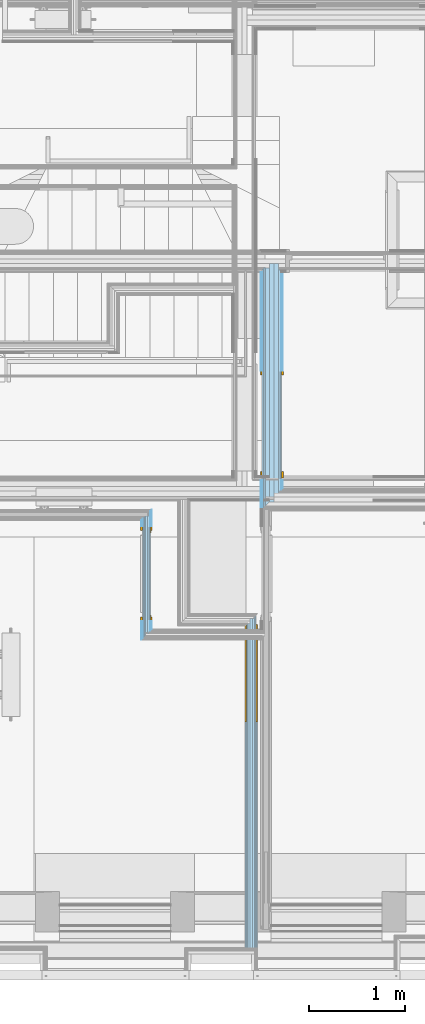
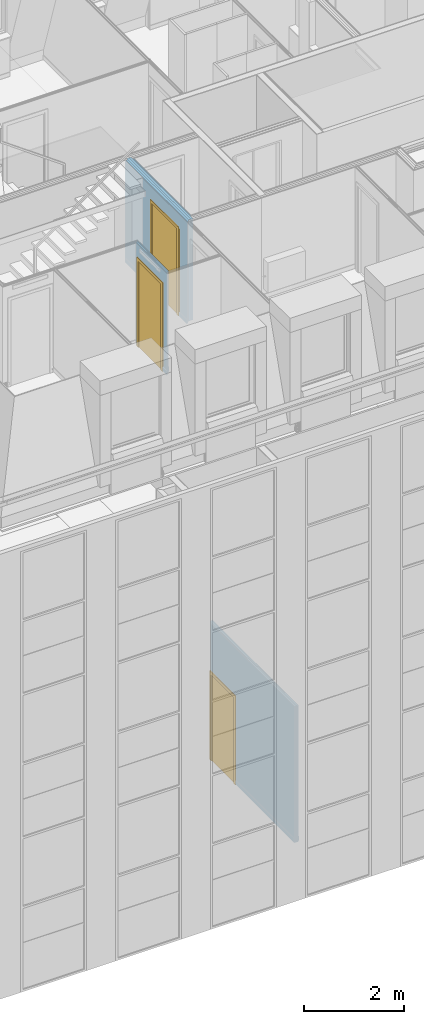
# One storey, part 85 of 169: 3 doors, 4 openings, 3 elements without a shape of their own, plus 23 elements that do not belong to this part.
"""IFC2X3 building model written with IfcOpenShell, lengths in metres."""

from ifc_helpers import new_model, entity, si_unit, converted_unit, derived_unit, money_unit, direction, frame, frame_2d, origin_with_axes, place, context, subcontext, project, spatial, polyline, rectangle, outline, extrude, faceted_brep, material, type_object, element, fill, aggregate, save


model = new_model("IFC2X3")

# Units and contexts
model_context = context("Model", 3, precision=1e-05, world=origin_with_axes(), true_north=direction((0.0, 1.0)))
body_context = subcontext(model_context, "Body", "Model", "MODEL_VIEW", scale=1.0)
ifc_project = project(units=[si_unit("LENGTHUNIT", "METRE"), si_unit("AREAUNIT", "SQUARE_METRE"), si_unit("VOLUMEUNIT", "CUBIC_METRE"), si_unit("ABSORBEDDOSEUNIT", "GRAY"), si_unit("AMOUNTOFSUBSTANCEUNIT", "MOLE"), si_unit("DOSEEQUIVALENTUNIT", "SIEVERT"), si_unit("ELECTRICCAPACITANCEUNIT", "FARAD"), si_unit("ELECTRICCHARGEUNIT", "COULOMB"), si_unit("ELECTRICCONDUCTANCEUNIT", "SIEMENS"), si_unit("ELECTRICCURRENTUNIT", "AMPERE"), si_unit("ELECTRICRESISTANCEUNIT", "OHM"), si_unit("ELECTRICVOLTAGEUNIT", "VOLT"), si_unit("ENERGYUNIT", "JOULE"), si_unit("FORCEUNIT", "NEWTON"), si_unit("FREQUENCYUNIT", "HERTZ"), si_unit("ILLUMINANCEUNIT", "LUX"), si_unit("INDUCTANCEUNIT", "HENRY"), si_unit("LUMINOUSFLUXUNIT", "LUMEN"), si_unit("LUMINOUSINTENSITYUNIT", "CANDELA"), si_unit("MAGNETICFLUXDENSITYUNIT", "TESLA"), si_unit("MAGNETICFLUXUNIT", "WEBER"), si_unit("MASSUNIT", "GRAM"), converted_unit("PLANEANGLEUNIT", "degree", entity("IfcReal", 0.0174532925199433), si_unit("PLANEANGLEUNIT", "RADIAN"), dimensions=[0, 0, 0, 0, 0, 0, 0]), si_unit("POWERUNIT", "WATT"), si_unit("PRESSUREUNIT", "PASCAL"), si_unit("RADIOACTIVITYUNIT", "BECQUEREL"), si_unit("SOLIDANGLEUNIT", "STERADIAN"), si_unit("THERMODYNAMICTEMPERATUREUNIT", "KELVIN"), si_unit("TIMEUNIT", "SECOND"), derived_unit("ACCELERATIONUNIT", [(si_unit("LENGTHUNIT", "METRE"), 1), (si_unit("TIMEUNIT", "SECOND"), -2)]), derived_unit("ANGULARVELOCITYUNIT", [(converted_unit("PLANEANGLEUNIT", "degree", entity("IfcReal", 0.0174532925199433), si_unit("PLANEANGLEUNIT", "RADIAN"), dimensions=[0, 0, 0, 0, 0, 0, 0]), 1), (si_unit("TIMEUNIT", "SECOND"), -1)]), derived_unit("CURVATUREUNIT", [(converted_unit("PLANEANGLEUNIT", "degree", entity("IfcReal", 0.0174532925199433), si_unit("PLANEANGLEUNIT", "RADIAN"), dimensions=[0, 0, 0, 0, 0, 0, 0]), 1), (si_unit("LENGTHUNIT", "METRE"), -1)]), derived_unit("DYNAMICVISCOSITYUNIT", [(si_unit("PRESSUREUNIT", "PASCAL"), 1), (si_unit("TIMEUNIT", "SECOND"), 1)]), derived_unit("HEATFLUXDENSITYUNIT", [(si_unit("POWERUNIT", "WATT"), 1), (si_unit("LENGTHUNIT", "METRE"), -2)]), derived_unit("HEATINGVALUEUNIT", [(si_unit("ENERGYUNIT", "JOULE"), 1), (si_unit("MASSUNIT", "GRAM"), -1)]), derived_unit("INTEGERCOUNTRATEUNIT", [(si_unit("TIMEUNIT", "SECOND"), -1)]), derived_unit("IONCONCENTRATIONUNIT", [(si_unit("MASSUNIT", "GRAM"), 1), (si_unit("VOLUMEUNIT", "CUBIC_METRE"), -1)]), derived_unit("ISOTHERMALMOISTURECAPACITYUNIT", [(si_unit("VOLUMEUNIT", "CUBIC_METRE"), 1), (si_unit("MASSUNIT", "GRAM"), -1)]), derived_unit("KINEMATICVISCOSITYUNIT", [(si_unit("AREAUNIT", "SQUARE_METRE"), 1), (si_unit("TIMEUNIT", "SECOND"), -1)]), derived_unit("LINEARFORCEUNIT", [(si_unit("FORCEUNIT", "NEWTON"), 1), (si_unit("LENGTHUNIT", "METRE"), -1)]), derived_unit("LINEARMOMENTUNIT", [(si_unit("FORCEUNIT", "NEWTON"), 1), (si_unit("LENGTHUNIT", "METRE"), -1)]), derived_unit("LINEARSTIFFNESSUNIT", [(si_unit("FORCEUNIT", "NEWTON"), 1), (si_unit("LENGTHUNIT", "METRE"), -1)]), derived_unit("LINEARVELOCITYUNIT", [(si_unit("LENGTHUNIT", "METRE"), 1), (si_unit("TIMEUNIT", "SECOND"), -1)]), derived_unit("LUMINOUSINTENSITYDISTRIBUTIONUNIT", [(si_unit("LUMINOUSINTENSITYUNIT", "CANDELA"), 1), (si_unit("LUMINOUSFLUXUNIT", "LUMEN"), -1)]), derived_unit("MASSDENSITYUNIT", [(si_unit("MASSUNIT", "GRAM"), 1), (si_unit("VOLUMEUNIT", "CUBIC_METRE"), -1)]), derived_unit("MASSFLOWRATEUNIT", [(si_unit("MASSUNIT", "GRAM"), 1), (si_unit("TIMEUNIT", "SECOND"), -1)]), derived_unit("MASSPERLENGTHUNIT", [(si_unit("MASSUNIT", "GRAM"), 1), (si_unit("LENGTHUNIT", "METRE"), -1)]), derived_unit("MODULUSOFELASTICITYUNIT", [(si_unit("FORCEUNIT", "NEWTON"), 1), (si_unit("AREAUNIT", "SQUARE_METRE"), -1)]), derived_unit("MODULUSOFLINEARSUBGRADEREACTIONUNIT", [(si_unit("FORCEUNIT", "NEWTON"), 1), (si_unit("LENGTHUNIT", "METRE"), -2)]), derived_unit("MODULUSOFROTATIONALSUBGRADEREACTIONUNIT", [(si_unit("FORCEUNIT", "NEWTON"), 1), (si_unit("LENGTHUNIT", "METRE"), 1)]), derived_unit("MODULUSOFSUBGRADEREACTIONUNIT", [(si_unit("FORCEUNIT", "NEWTON"), 1), (si_unit("VOLUMEUNIT", "CUBIC_METRE"), -1)]), derived_unit("MOISTUREDIFFUSIVITYUNIT", [(si_unit("VOLUMEUNIT", "CUBIC_METRE"), 1), (si_unit("TIMEUNIT", "SECOND"), -1)]), derived_unit("MOLECULARWEIGHTUNIT", [(si_unit("MASSUNIT", "GRAM"), 1), (si_unit("AMOUNTOFSUBSTANCEUNIT", "MOLE"), -1)]), derived_unit("PLANARFORCEUNIT", [(si_unit("FORCEUNIT", "NEWTON"), 1), (si_unit("LENGTHUNIT", "METRE"), -2)]), derived_unit("ROTATIONALFREQUENCYUNIT", [(si_unit("TIMEUNIT", "SECOND"), -1)]), derived_unit("ROTATIONALMASSUNIT", [(si_unit("MASSUNIT", "GRAM"), 1), (si_unit("LENGTHUNIT", "METRE"), 2)]), derived_unit("ROTATIONALSTIFFNESSUNIT", [(si_unit("FORCEUNIT", "NEWTON"), 1), (si_unit("LENGTHUNIT", "METRE"), 1), (converted_unit("PLANEANGLEUNIT", "degree", entity("IfcReal", 0.0174532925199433), si_unit("PLANEANGLEUNIT", "RADIAN"), dimensions=[0, 0, 0, 0, 0, 0, 0]), -1)]), derived_unit("SECTIONAREAINTEGRALUNIT", [(si_unit("LENGTHUNIT", "METRE"), 5)]), derived_unit("SECTIONMODULUSUNIT", [(si_unit("LENGTHUNIT", "METRE"), 3)]), derived_unit("SHEARMODULUSUNIT", [(si_unit("FORCEUNIT", "NEWTON"), 1), (si_unit("AREAUNIT", "SQUARE_METRE"), -1)]), derived_unit("SOUNDPOWERUNIT", [(si_unit("ENERGYUNIT", "JOULE"), 1), (si_unit("TIMEUNIT", "SECOND"), -1)]), derived_unit("SPECIFICHEATCAPACITYUNIT", [(si_unit("FORCEUNIT", "NEWTON"), 1), (si_unit("MASSUNIT", "GRAM"), -1), (si_unit("THERMODYNAMICTEMPERATUREUNIT", "KELVIN"), -1)]), derived_unit("TEMPERATUREGRADIENTUNIT", [(si_unit("THERMODYNAMICTEMPERATUREUNIT", "KELVIN"), 1), (si_unit("LENGTHUNIT", "METRE"), -1)]), derived_unit("THERMALADMITTANCEUNIT", [(si_unit("POWERUNIT", "WATT"), 1), (si_unit("AREAUNIT", "SQUARE_METRE"), -1), (si_unit("THERMODYNAMICTEMPERATUREUNIT", "KELVIN"), -1)]), derived_unit("THERMALCONDUCTANCEUNIT", [(si_unit("POWERUNIT", "WATT"), 1), (si_unit("LENGTHUNIT", "METRE"), -1), (si_unit("THERMODYNAMICTEMPERATUREUNIT", "KELVIN"), -1)]), derived_unit("THERMALEXPANSIONCOEFFICIENTUNIT", [(si_unit("THERMODYNAMICTEMPERATUREUNIT", "KELVIN"), -1)]), derived_unit("THERMALRESISTANCEUNIT", [(si_unit("AREAUNIT", "SQUARE_METRE"), 1), (si_unit("POWERUNIT", "WATT"), -1)]), derived_unit("THERMALTRANSMITTANCEUNIT", [(si_unit("POWERUNIT", "WATT"), 1), (si_unit("AREAUNIT", "SQUARE_METRE"), -1), (si_unit("THERMODYNAMICTEMPERATUREUNIT", "KELVIN"), -1)]), derived_unit("TORQUEUNIT", [(si_unit("FORCEUNIT", "NEWTON"), 1), (si_unit("LENGTHUNIT", "METRE"), 1)]), derived_unit("VAPORPERMEABILITYUNIT", [(si_unit("MASSUNIT", "GRAM"), 1), (si_unit("TIMEUNIT", "SECOND"), -1)]), derived_unit("VOLUMETRICFLOWRATEUNIT", [(si_unit("VOLUMEUNIT", "CUBIC_METRE"), 1), (si_unit("TIMEUNIT", "SECOND"), -1)]), derived_unit("WARPINGCONSTANTUNIT", [(si_unit("LENGTHUNIT", "METRE"), 6)]), derived_unit("WARPINGMOMENTUNIT", [(si_unit("FORCEUNIT", "NEWTON"), 1), (si_unit("LENGTHUNIT", "METRE"), 2)]), money_unit("GBP")], contexts=[model_context])

# Site, building, storey, space
site_placement = place(None, origin_with_axes())
site = spatial("IfcSite", under=ifc_project, at=site_placement, Name="Site", CompositionType="ELEMENT")
building_placement = place(site_placement, origin_with_axes())
building = spatial("IfcBuilding", under=site, at=building_placement, Name="Building01", CompositionType="ELEMENT")
storey_placement = place(building_placement, frame((0.0, 0.0, 5.15), z_axis=(0.0, 0.0, 1.0), x_axis=(1.0, 0.0, 0.0)))
storey = spatial("IfcBuildingStorey", under=building, at=storey_placement, Name="1F", CompositionType="ELEMENT", Elevation=5.15)
space_1_placement = place(storey_placement, frame((12.175, 4.189428, 9.86), z_axis=(0.0, 0.0, 1.0), x_axis=(0.0, 1.0, 0.0)))
space_1 = spatial("IfcSpace", under=storey, at=space_1_placement, Name="25", CompositionType="ELEMENT", InteriorOrExteriorSpace="NOTDEFINED")

# Door
ifc_material_1 = material(Name="A_BSUK_Doors")
door_style_1 = type_object("IfcDoorStyle", Name="A-Doors-SingleFlush", ConstructionType="USERDEFINED", OperationType="SINGLE_SWING_RIGHT", ParameterTakesPrecedence=False, Sizeable=False)
wall_3_placement = place(storey_placement, frame((6.147098, 4.806939, 9.83), z_axis=(0.0, 0.0, 1.0), x_axis=(0.0, -1.0, 0.0)))
opening_4_placement = place(wall_3_placement, frame((0.105, -0.042, 0.0), z_axis=(0.0, 0.0, 1.0), x_axis=(1.0, 0.0, 0.0)))
door_1_placement = place(opening_4_placement, frame((0.942, 0.015, 0.0), z_axis=(0.0, 0.0, 1.0), x_axis=(-1.0, 0.0, 0.0)))
door_1 = element("IfcDoor", 1, at=door_1_placement, inside=space_1, type_object=door_style_1, material=ifc_material_1, Name="4.21", ObjectType="A-Doors-SingleFlush", OverallHeight=2.14200000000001, OverallWidth=0.984000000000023, context=body_context, shape_type="Brep", body=[
    faceted_brep([(0.9, -0.099, 0.0), (0.969, -0.099, 0.0), (0.969, -0.099, 2.169), (-0.069, -0.099, 2.169), (-0.069, -0.099, 0.0), (0.0, -0.099, 0.0), (0.0, -0.099, 2.1), (0.9, -0.099, 2.1), (-0.069, -0.08, 0.0), (-0.069, -0.08, 2.169), (0.969, -0.08, 2.169), (0.969, -0.08, 0.0), (0.9, 0.019, 0.0), (0.969, 0.019, 0.0), (0.969, 0.0, 0.0), (0.942, 0.0, 0.0), (0.942, -0.08, 0.0), (0.9, 0.019, 2.1), (0.0, 0.019, 2.1), (0.0, 0.019, 0.0), (-0.069, 0.019, 0.0), (-0.069, 0.019, 2.169), (0.969, 0.019, 2.169), (0.969, 0.0, 2.169), (0.942, -0.08, 2.142), (0.942, 0.0, 2.142), (-0.042, -0.08, 2.142), (-0.042, 0.0, 2.142), (-0.042, -0.08, 0.0), (-0.042, 0.0, 0.0), (-0.069, 0.0, 2.169), (-0.069, 0.0, 0.0)], [[[0, 1, 2, 3, 4, 5, 6, 7]], [[8, 4, 3, 9]], [[10, 2, 1, 11]], [[9, 3, 2, 10]], [[12, 13, 14, 15, 16, 11, 1, 0]], [[7, 17, 12, 0]], [[6, 18, 17, 7]], [[18, 19, 20, 21, 22, 13, 12, 17]], [[5, 19, 18, 6]], [[13, 22, 23, 14]], [[24, 16, 15, 25]], [[26, 24, 25, 27]], [[11, 16, 24, 26, 28, 8, 9, 10]], [[27, 29, 28, 26]], [[25, 15, 14, 23, 30, 31, 29, 27]], [[5, 4, 8, 28, 29, 31, 20, 19]], [[30, 21, 20, 31]], [[23, 22, 21, 30]]]),
    faceted_brep([(0.0, -0.09, 2.1), (0.0, -0.04, 2.1), (0.0, -0.04, 0.0), (0.0, -0.09, 0.0), (0.875, -0.09, 0.0), (0.9, -0.09, 0.0), (0.9, -0.09, 2.1), (0.025, -0.09, 0.0), (0.025, -0.09, 2.075), (0.875, -0.09, 2.075), (0.875, -0.04, 0.0), (0.9, -0.04, 0.0), (0.9, -0.04, 2.1), (0.025, -0.04, 2.075), (0.025, -0.04, 0.0), (0.875, -0.04, 2.075)], [[[0, 1, 2, 3]], [[4, 5, 6, 0, 3, 7, 8, 9]], [[10, 11, 5, 4]], [[6, 12, 1, 0]], [[5, 11, 12, 6]], [[13, 14, 2, 1, 12, 11, 10, 15]], [[7, 14, 13, 8]], [[7, 3, 2, 14]], [[9, 15, 10, 4]], [[8, 13, 15, 9]]]),
    faceted_brep([(0.9, -0.04, 0.0), (0.9, 0.0, 0.0), (0.9, 0.0, 2.1), (0.9, -0.04, 2.1), (0.0, -0.04, 2.1), (0.0, 0.0, 2.1), (0.0, 0.0, 0.0), (0.0, -0.04, 0.0)], [[[0, 1, 2, 3]], [[4, 5, 6, 7]], [[7, 6, 1, 0]], [[3, 4, 7, 0]], [[3, 2, 5, 4]], [[1, 6, 5, 2]]]),
])

# Space
space_2_placement = place(storey_placement, frame((12.15, 4.98, 0.017975), z_axis=(0.0, 0.0, 1.0), x_axis=(-1.0, 0.0, 0.0)))
space_2 = spatial("IfcSpace", under=storey, at=space_2_placement, Name="05", CompositionType="ELEMENT", InteriorOrExteriorSpace="NOTDEFINED")

# Door
door_style_2 = type_object("IfcDoorStyle", Name="A-Doors-SingleFlush", ConstructionType="USERDEFINED", OperationType="SINGLE_SWING_RIGHT", ParameterTakesPrecedence=False, Sizeable=False)
wall_1_placement = place(storey_placement, frame((7.26, 3.745, 0.0), z_axis=(0.0, 0.0, 1.0), x_axis=(0.0, -1.0, 0.0)))
opening_1_placement = place(wall_1_placement, frame((0.129, -0.075, -0.015), z_axis=(0.0, 0.0, 1.0), x_axis=(1.0, 0.0, 0.0)))
door_2_placement = place(opening_1_placement, frame((0.9, 0.015, 0.015), z_axis=(0.0, 0.0, 1.0), x_axis=(-1.0, 0.0, 0.0)))
door_2 = element("IfcDoor", 2, at=door_2_placement, inside=space_2, type_object=door_style_2, material=ifc_material_1, Name="1.16", ObjectType="A-Doors-SingleFlush", OverallHeight=2.157, OverallWidth=1.56178056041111, context=body_context, shape_type="Brep", body=[
    faceted_brep([(0.9, -0.114, 0.0), (0.969, -0.114, 0.0), (0.969, -0.114, 2.169), (-0.069, -0.114, 2.169), (-0.069, -0.114, 0.0), (0.0, -0.114, 0.0), (0.0, -0.114, 2.1), (0.9, -0.114, 2.1), (-0.069, -0.095, 0.0), (-0.069, -0.095, 2.169), (0.969, -0.095, 2.169), (0.969, -0.095, 0.0), (0.9, 0.019, 0.0), (0.969, 0.019, 0.0), (0.969, 0.0, 0.0), (0.942, 0.0, 0.0), (0.942, -0.095, 0.0), (0.9, 0.019, 2.1), (0.0, 0.019, 2.1), (0.0, 0.019, 0.0), (-0.069, 0.019, 0.0), (-0.069, 0.019, 2.169), (0.969, 0.019, 2.169), (0.969, 0.0, 2.169), (0.942, -0.095, 2.142), (0.942, 0.0, 2.142), (-0.042, -0.095, 2.142), (-0.042, 0.0, 2.142), (-0.042, -0.095, 0.0), (-0.042, 0.0, 0.0), (-0.069, 0.0, 2.169), (-0.069, 0.0, 0.0)], [[[0, 1, 2, 3, 4, 5, 6, 7]], [[8, 4, 3, 9]], [[10, 2, 1, 11]], [[9, 3, 2, 10]], [[12, 13, 14, 15, 16, 11, 1, 0]], [[7, 17, 12, 0]], [[6, 18, 17, 7]], [[18, 19, 20, 21, 22, 13, 12, 17]], [[5, 19, 18, 6]], [[13, 22, 23, 14]], [[24, 16, 15, 25]], [[26, 24, 25, 27]], [[11, 16, 24, 26, 28, 8, 9, 10]], [[27, 29, 28, 26]], [[25, 15, 14, 23, 30, 31, 29, 27]], [[5, 4, 8, 28, 29, 31, 20, 19]], [[30, 21, 20, 31]], [[23, 22, 21, 30]]]),
    faceted_brep([(0.0, -0.09, 2.1), (0.0, -0.04, 2.1), (0.0, -0.04, 0.0), (0.0, -0.09, 0.0), (0.875, -0.09, 0.0), (0.9, -0.09, 0.0), (0.9, -0.09, 2.1), (0.025, -0.09, 0.0), (0.025, -0.09, 2.075), (0.875, -0.09, 2.075), (0.875, -0.04, 0.0), (0.9, -0.04, 0.0), (0.9, -0.04, 2.1), (0.025, -0.04, 2.075), (0.025, -0.04, 0.0), (0.875, -0.04, 2.075)], [[[0, 1, 2, 3]], [[4, 5, 6, 0, 3, 7, 8, 9]], [[10, 11, 5, 4]], [[6, 12, 1, 0]], [[5, 11, 12, 6]], [[13, 14, 2, 1, 12, 11, 10, 15]], [[7, 14, 13, 8]], [[7, 3, 2, 14]], [[9, 15, 10, 4]], [[8, 13, 15, 9]]]),
    faceted_brep([(0.9, -0.04, 0.0), (0.9, 0.0, 0.0), (0.9, 0.0, 2.1), (0.9, -0.04, 2.1), (0.0, -0.04, 2.1), (0.0, 0.0, 2.1), (0.0, 0.0, 0.0), (0.0, -0.04, 0.0)], [[[0, 1, 2, 3]], [[4, 5, 6, 7]], [[7, 6, 1, 0]], [[3, 4, 7, 0]], [[3, 2, 5, 4]], [[1, 6, 5, 2]]]),
])

# Space
space_3_placement = place(storey_placement, frame((3.119976, 4.859939, 9.86), z_axis=(0.0, 0.0, 1.0), x_axis=(1.0, 0.0, 0.0)))
space_3 = spatial("IfcSpace", under=storey, at=space_3_placement, Name="corridor (protected)", CompositionType="ELEMENT", InteriorOrExteriorSpace="NOTDEFINED")

# Door
door_style_3 = type_object("IfcDoorStyle", Name="A-Doors-SingleFlush", ConstructionType="USERDEFINED", OperationType="SINGLE_SWING_RIGHT", ParameterTakesPrecedence=False, Sizeable=False)
wall_2_placement = place(storey_placement, frame((7.435, 7.425061, 9.83), z_axis=(0.0, 0.0, 1.0), x_axis=(0.0, -1.0, 0.0)))
opening_3_placement = place(wall_2_placement, frame((1.111061, -0.09, 0.0), z_axis=(0.0, 0.0, 1.0), x_axis=(1.0, 0.0, 0.0)))
door_3_placement = place(opening_3_placement, frame((1.042, 0.015, 0.0), z_axis=(0.0, 0.0, 1.0), x_axis=(-1.0, 0.0, 0.0)))
door_3 = element("IfcDoor", 3, at=door_3_placement, inside=space_3, type_object=door_style_3, material=ifc_material_1, Name="4.18", ObjectType="A-Doors-SingleFlush", OverallHeight=2.142, OverallWidth=1.134, context=body_context, shape_type="Brep", body=[
    faceted_brep([(1.0, -0.219, 0.0), (1.069, -0.219, 0.0), (1.069, -0.219, 2.169), (-0.069, -0.219, 2.169), (-0.069, -0.219, 0.0), (0.0, -0.219, 0.0), (0.0, -0.219, 2.1), (1.0, -0.219, 2.1), (-0.069, -0.2, 0.0), (-0.069, -0.2, 2.169), (1.069, -0.2, 2.169), (1.069, -0.2, 0.0), (1.0, 0.019, 0.0), (1.069, 0.019, 0.0), (1.069, 0.0, 0.0), (1.042, 0.0, 0.0), (1.042, -0.2, 0.0), (1.0, 0.019, 2.1), (0.0, 0.019, 2.1), (0.0, 0.019, 0.0), (-0.069, 0.019, 0.0), (-0.069, 0.019, 2.169), (1.069, 0.019, 2.169), (1.069, 0.0, 2.169), (1.042, -0.2, 2.142), (1.042, 0.0, 2.142), (-0.042, -0.2, 2.142), (-0.042, 0.0, 2.142), (-0.042, -0.2, 0.0), (-0.042, 0.0, 0.0), (-0.069, 0.0, 2.169), (-0.069, 0.0, 0.0)], [[[0, 1, 2, 3, 4, 5, 6, 7]], [[8, 4, 3, 9]], [[10, 2, 1, 11]], [[9, 3, 2, 10]], [[12, 13, 14, 15, 16, 11, 1, 0]], [[7, 17, 12, 0]], [[6, 18, 17, 7]], [[18, 19, 20, 21, 22, 13, 12, 17]], [[5, 19, 18, 6]], [[13, 22, 23, 14]], [[24, 16, 15, 25]], [[26, 24, 25, 27]], [[11, 16, 24, 26, 28, 8, 9, 10]], [[27, 29, 28, 26]], [[25, 15, 14, 23, 30, 31, 29, 27]], [[5, 4, 8, 28, 29, 31, 20, 19]], [[30, 21, 20, 31]], [[23, 22, 21, 30]]]),
    faceted_brep([(0.0, -0.09, 2.1), (0.0, -0.04, 2.1), (0.0, -0.04, 0.0), (0.0, -0.09, 0.0), (0.975, -0.09, 0.0), (1.0, -0.09, 0.0), (1.0, -0.09, 2.1), (0.025, -0.09, 0.0), (0.025, -0.09, 2.075), (0.975, -0.09, 2.075), (0.975, -0.04, 0.0), (1.0, -0.04, 0.0), (1.0, -0.04, 2.1), (0.025, -0.04, 2.075), (0.025, -0.04, 0.0), (0.975, -0.04, 2.075)], [[[0, 1, 2, 3]], [[4, 5, 6, 0, 3, 7, 8, 9]], [[10, 11, 5, 4]], [[6, 12, 1, 0]], [[5, 11, 12, 6]], [[13, 14, 2, 1, 12, 11, 10, 15]], [[7, 14, 13, 8]], [[7, 3, 2, 14]], [[9, 15, 10, 4]], [[8, 13, 15, 9]]]),
    faceted_brep([(1.0, -0.04, 0.0), (1.0, 0.0, 0.0), (1.0, 0.0, 2.1), (1.0, -0.04, 2.1), (0.0, -0.04, 2.1), (0.0, 0.0, 2.1), (0.0, 0.0, 0.0), (0.0, -0.04, 0.0)], [[[0, 1, 2, 3]], [[4, 5, 6, 7]], [[7, 6, 1, 0]], [[3, 4, 7, 0]], [[3, 2, 5, 4]], [[1, 6, 5, 2]]]),
])

# Wall, opening
wall_type_1 = type_object("IfcWallType", Name="SHE_A-Walls_Type05a_Partition_95mm_tall", PredefinedType="NOTDEFINED")
wall_1 = element("IfcWall", 4, at=wall_1_placement, inside=storey, type_object=wall_type_1, Name="5A", ObjectType="SHE_A-Walls_Type05a_Partition_95mm_tall")
opening_1 = element("IfcOpeningElement", 5, at=opening_1_placement, cuts=wall_1, Name="Opening", ObjectType="Opening", context=body_context, shape_type="SweptSolid", body=[
    extrude(outline(polyline([(0.0, 2.142), (-0.9, 2.142), (-0.9, 0.015), (-0.464219, 0.015), (-0.464219, 0.0), (0.0, 0.0), (0.0, 2.142)])), frame((0.0, 0.0, 0.0), z_axis=(0.0, 1.0, 0.0), x_axis=(-1.0, 0.0, 0.0)), (0.0, 0.0, 1.0), 0.125),
    extrude(outline(polyline([(0.619781, 2.157), (-0.942, 2.157), (-0.942, 0.015), (-0.464219, 0.015), (-0.464219, 0.0), (0.619781, 0.0), (0.619781, 2.157)])), frame((0.0, 0.015, 0.0), z_axis=(0.0, 1.0, 0.0), x_axis=(-1.0, 0.0, 0.0)), (0.0, 0.0, 1.0), 0.012),
    extrude(outline(polyline([(0.619781, 2.157), (-0.942, 2.157), (-0.942, 0.015), (-0.464219, 0.015), (-0.464219, 0.0), (0.619781, 0.0), (0.619781, 2.157)])), frame((0.0, 0.027, 0.0), z_axis=(0.0, 1.0, 0.0), x_axis=(-1.0, 0.0, 0.0)), (0.0, 0.0, 1.0), 0.023),
    extrude(outline(polyline([(0.619781, 2.157), (-0.942, 2.157), (-0.942, 0.015), (-0.464219, 0.015), (-0.464219, 0.0), (0.619781, 0.0), (0.619781, 2.157)])), frame((0.0, 0.05, 0.0), z_axis=(0.0, 1.0, 0.0), x_axis=(-1.0, 0.0, 0.0)), (0.0, 0.0, 1.0), 0.025),
    extrude(outline(polyline([(0.619781, 2.157), (-0.942, 2.157), (-0.942, 0.015), (-0.464219, 0.015), (-0.464219, 0.0), (0.619781, 0.0), (0.619781, 2.157)])), frame((0.0, 0.075, 0.0), z_axis=(0.0, 1.0, 0.0), x_axis=(-1.0, 0.0, 0.0)), (0.0, 0.0, 1.0), 0.023),
    extrude(rectangle(XDim=0.9, YDim=2.142, at=frame_2d((-0.45, 1.071), x_axis=(-1.0, 0.0))), frame((0.0, 0.098, 0.0), z_axis=(0.0, 1.0, 0.0), x_axis=(-1.0, 0.0, 0.0)), (0.0, 0.0, 1.0), 0.012),
    extrude(outline(polyline([(0.042, 2.142), (0.042, 2.157), (-0.942, 2.157), (-0.942, 0.015), (-0.464219, 0.015), (-0.464219, 0.0), (0.619781, 0.0), (0.619781, 2.142), (0.042, 2.142)])), frame((0.0, 0.0, 0.0), z_axis=(0.0, 1.0, 0.0), x_axis=(-1.0, 0.0, 0.0)), (0.0, 0.0, 1.0), 0.098),
    extrude(outline(polyline([(0.042, 2.142), (0.042, 2.157), (-0.942, 2.157), (-0.942, 0.015), (-0.464219, 0.015), (-0.464219, 0.0), (0.619781, 0.0), (0.619781, 2.142), (0.042, 2.142)])), frame((0.0, 0.11, 0.0), z_axis=(0.0, 1.0, 0.0), x_axis=(-1.0, 0.0, 0.0)), (0.0, 0.0, 1.0), 0.015),
])

fill(opening_1, door_2)

# Opening
opening_2_placement = place(wall_1_placement, frame((0.087, 0.023, 0.0), z_axis=(0.0, 0.0, 1.0), x_axis=(1.0, 0.0, 0.0)))
element("IfcOpeningElement", 6, at=opening_2_placement, cuts=wall_1, Name="Opening", ObjectType="Recess", context=body_context, shape_type="SweptSolid", body=[
    extrude(rectangle(XDim=2.142, YDim=0.984, at=frame_2d((-0.492, 1.071), x_axis=(0.0, 1.0))), frame((0.0, 0.0, 0.0), z_axis=(0.0, 1.0, 0.0), x_axis=(-1.0, 0.0, 0.0)), (0.0, 0.0, 1.0), 0.012),
])

# Building element part
ifc_material_2 = material(Name="A_BSUK_Walls_Timber")
placement_1 = place(wall_1_placement, origin_with_axes())
building_element_part_1 = element("IfcBuildingElementPart", 7, at=placement_1, material=ifc_material_2, Name="1", context=body_context, shape_type="SweptSolid", body=[
    extrude(outline(polyline([(3.427, -0.06), (0.06, -0.06), (0.075, -0.075), (3.427, -0.075), (3.427, -0.06)])), frame((0.0, 0.0, 0.015), z_axis=(0.0, 0.0, 1.0), x_axis=(1.0, 0.0, 0.0)), (0.0, 0.0, 1.0), 0.1),
])

ifc_material_3 = material(Name="A_BSUK_WallInternal_Finishes_Plasterboard")
building_element_part_2 = element("IfcBuildingElementPart", 8, at=placement_1, material=ifc_material_3, Name="2", context=body_context, shape_type="SweptSolid", body=[
    extrude(outline(polyline([(3.427, -0.048), (0.048, -0.048), (0.06, -0.06), (3.427, -0.06), (3.427, -0.048)])), origin_with_axes(), (0.0, 0.0, 1.0), 3.32),
])

ifc_material_4 = material(Name="Air Cavity")
building_element_part_3 = element("IfcBuildingElementPart", 9, at=placement_1, material=ifc_material_4, Name="3", context=body_context, shape_type="SweptSolid", body=[
    extrude(outline(polyline([(3.427, -0.025), (0.025, -0.025), (0.048, -0.048), (3.427, -0.048), (3.427, -0.025)])), origin_with_axes(), (0.0, 0.0, 1.0), 3.32),
])

ifc_material_5 = material(Name="A_BSUK_Insulation")
building_element_part_4 = element("IfcBuildingElementPart", 10, at=placement_1, material=ifc_material_5, Name="4", context=body_context, shape_type="SweptSolid", body=[
    extrude(rectangle(XDim=3.427, YDim=0.025, at=frame_2d((1.7135, -0.0125), x_axis=(-1.0, 0.0))), origin_with_axes(), (0.0, 0.0, 1.0), 3.32),
])

building_element_part_5 = element("IfcBuildingElementPart", 11, at=placement_1, material=ifc_material_4, Name="5", context=body_context, shape_type="SweptSolid", body=[
    extrude(rectangle(XDim=3.427, YDim=0.023, at=frame_2d((1.7135, 0.0115), x_axis=(-1.0, 0.0))), origin_with_axes(), (0.0, 0.0, 1.0), 3.32),
])

building_element_part_6 = element("IfcBuildingElementPart", 12, at=placement_1, material=ifc_material_3, Name="6", context=body_context, shape_type="SweptSolid", body=[
    extrude(outline(polyline([(3.427, 0.035), (-0.035, 0.035), (-0.023, 0.023), (3.427, 0.023), (3.427, 0.035)])), origin_with_axes(), (0.0, 0.0, 1.0), 3.32),
])

building_element_part_7 = element("IfcBuildingElementPart", 13, at=placement_1, material=ifc_material_2, Name="7", context=body_context, shape_type="SweptSolid", body=[
    extrude(outline(polyline([(3.412, 0.05), (-0.05, 0.05), (-0.035, 0.035), (3.412, 0.035), (3.412, 0.05)])), frame((0.0, 0.0, 0.015), z_axis=(0.0, 0.0, 1.0), x_axis=(1.0, 0.0, 0.0)), (0.0, 0.0, 1.0), 0.1),
])

aggregate(wall_1, [building_element_part_1, building_element_part_2, building_element_part_3, building_element_part_4, building_element_part_5, building_element_part_6, building_element_part_7])

# Wall, opening
wall_type_2 = type_object("IfcWallType", Name="SHE_A-Walls_Type01d_Partywall_200mm_twin", PredefinedType="NOTDEFINED")
wall_2 = element("IfcWall", 14, at=wall_2_placement, inside=storey, type_object=wall_type_2, Name="1D", ObjectType="SHE_A-Walls_Type01d_Partywall_200mm_twin")
opening_3 = element("IfcOpeningElement", 15, at=opening_3_placement, cuts=wall_2, Name="Opening", ObjectType="Opening", context=body_context, shape_type="SweptSolid", body=[
    extrude(rectangle(XDim=1.134, YDim=2.142, at=frame_2d((-0.567, 1.071), x_axis=(-1.0, 0.0))), frame((0.0, 0.0, 0.0), z_axis=(0.0, 1.0, 0.0), x_axis=(-1.0, 0.0, 0.0)), (0.0, 0.0, 1.0), 0.23),
])

fill(opening_3, door_3)

# Building element part
placement_2 = place(wall_2_placement, origin_with_axes())
building_element_part_8 = element("IfcBuildingElementPart", 16, at=placement_2, material=ifc_material_2, Name="1", context=body_context, shape_type="SweptSolid", body=[
    extrude(outline(polyline([(2.545061, -0.075), (0.09, -0.075), (0.09, -0.09), (2.560061, -0.09), (2.545061, -0.075)])), frame((0.0, 0.0, 0.015), z_axis=(0.0, 0.0, 1.0), x_axis=(1.0, 0.0, 0.0)), (0.0, 0.0, 1.0), 0.1),
])

building_element_part_9 = element("IfcBuildingElementPart", 17, at=placement_2, material=ifc_material_3, Name="2", context=body_context, shape_type="SweptSolid", body=[
    extrude(outline(polyline([(2.530061, -0.06), (0.060121, -0.06), (0.060121, -0.075), (2.545061, -0.075), (2.530061, -0.06)])), origin_with_axes(), (0.0, 0.0, 1.0), 2.468),
])

building_element_part_10 = element("IfcBuildingElementPart", 18, at=placement_2, material=ifc_material_3, Name="3", context=body_context, shape_type="SweptSolid", body=[
    extrude(outline(polyline([(2.515061, -0.045), (0.045121, -0.045), (0.045121, -0.06), (2.530061, -0.06), (2.515061, -0.045)])), origin_with_axes(), (0.0, 0.0, 1.0), 2.468),
])

building_element_part_11 = element("IfcBuildingElementPart", 19, at=placement_2, material=ifc_material_4, Name="4", context=body_context, shape_type="SweptSolid", body=[
    extrude(outline(polyline([(2.470061, 0.0), (0.045121, 0.0), (0.045121, -0.045), (2.515061, -0.045), (2.470061, 0.0)])), origin_with_axes(), (0.0, 0.0, 1.0), 2.468),
])

building_element_part_12 = element("IfcBuildingElementPart", 20, at=placement_2, material=ifc_material_5, Name="5", context=body_context, shape_type="SweptSolid", body=[
    extrude(rectangle(XDim=2.470061, YDim=0.05, at=frame_2d((1.23503, 0.025), x_axis=(-1.0, 0.0))), origin_with_axes(), (0.0, 0.0, 1.0), 2.468),
])

building_element_part_13 = element("IfcBuildingElementPart", 21, at=placement_2, material=ifc_material_4, Name="6", context=body_context, shape_type="SweptSolid", body=[
    extrude(rectangle(XDim=2.470061, YDim=0.045, at=frame_2d((1.23503, 0.0725), x_axis=(-1.0, 0.0))), origin_with_axes(), (0.0, 0.0, 1.0), 2.468),
])

building_element_part_14 = element("IfcBuildingElementPart", 22, at=placement_2, material=ifc_material_3, Name="7", context=body_context, shape_type="SweptSolid", body=[
    extrude(outline(polyline([(2.360061, 0.11), (0.060121, 0.11), (0.060121, 0.095), (2.375061, 0.095), (2.360061, 0.11)])), origin_with_axes(), (0.0, 0.0, 1.0), 2.468),
])

building_element_part_15 = element("IfcBuildingElementPart", 23, at=placement_2, material=ifc_material_3, Name="8", context=body_context, shape_type="SweptSolid", body=[
    extrude(outline(polyline([(2.345061, 0.125), (0.075121, 0.125), (0.075121, 0.11), (2.360061, 0.11), (2.345061, 0.125)])), origin_with_axes(), (0.0, 0.0, 1.0), 2.468),
])

building_element_part_16 = element("IfcBuildingElementPart", 24, at=placement_2, material=ifc_material_2, Name="9", context=body_context, shape_type="SweptSolid", body=[
    extrude(outline(polyline([(2.330061, 0.14), (0.090121, 0.14), (0.090121, 0.125), (2.345061, 0.125), (2.330061, 0.14)])), frame((0.0, 0.0, 0.015), z_axis=(0.0, 0.0, 1.0), x_axis=(1.0, 0.0, 0.0)), (0.0, 0.0, 1.0), 0.1),
])

aggregate(wall_2, [building_element_part_8, building_element_part_9, building_element_part_10, building_element_part_11, building_element_part_12, building_element_part_13, building_element_part_14, building_element_part_15, building_element_part_16])

# Wall, opening
wall_type_3 = type_object("IfcWallType", Name="SHE_A-Walls_Type05b_Partition_80mm", PredefinedType="NOTDEFINED")
wall_3 = element("IfcWall", 25, at=wall_3_placement, inside=storey, type_object=wall_type_3, Name="5B", ObjectType="SHE_A-Walls_Type05b_Partition_80mm")
opening_4 = element("IfcOpeningElement", 26, at=opening_4_placement, cuts=wall_3, Name="Opening", ObjectType="Opening", context=body_context, shape_type="SweptSolid", body=[
    extrude(rectangle(XDim=2.142, YDim=0.984, at=frame_2d((-0.492, 1.071), x_axis=(0.0, 1.0))), frame((0.0, 0.0, 0.0), z_axis=(0.0, 1.0, 0.0), x_axis=(-1.0, 0.0, 0.0)), (0.0, 0.0, 1.0), 0.11),
])

fill(opening_4, door_1)

# Building element part
placement_3 = place(wall_3_placement, origin_with_axes())
building_element_part_17 = element("IfcBuildingElementPart", 27, at=placement_3, material=ifc_material_2, Name="1", context=body_context, shape_type="SweptSolid", body=[
    extrude(outline(polyline([(1.267, -0.027), (0.027, -0.027), (0.042, -0.042), (1.282, -0.042), (1.267, -0.027)])), frame((0.0, 0.0, 0.015), z_axis=(0.0, 0.0, 1.0), x_axis=(1.0, 0.0, 0.0)), (0.0, 0.0, 1.0), 0.1),
])

building_element_part_18 = element("IfcBuildingElementPart", 28, at=placement_3, material=ifc_material_3, Name="2", context=body_context, shape_type="SweptSolid", body=[
    extrude(outline(polyline([(1.252, -0.012), (0.012, -0.012), (0.027, -0.027), (1.267, -0.027), (1.252, -0.012)])), origin_with_axes(), (0.0, 0.0, 1.0), 2.468),
])

building_element_part_19 = element("IfcBuildingElementPart", 29, at=placement_3, material=ifc_material_4, Name="3", context=body_context, shape_type="SweptSolid", body=[
    extrude(outline(polyline([(1.24, 0.0), (0.0, 0.0), (0.012, -0.012), (1.252, -0.012), (1.24, 0.0)])), origin_with_axes(), (0.0, 0.0, 1.0), 2.468),
])

building_element_part_20 = element("IfcBuildingElementPart", 30, at=placement_3, material=ifc_material_5, Name="4", context=body_context, shape_type="SweptSolid", body=[
    extrude(rectangle(XDim=1.215, YDim=0.025, at=frame_2d((0.6075, 0.0125), x_axis=(-1.0, 0.0))), origin_with_axes(), (0.0, 0.0, 1.0), 2.468),
])

building_element_part_21 = element("IfcBuildingElementPart", 31, at=placement_3, material=ifc_material_4, Name="5", context=body_context, shape_type="SweptSolid", body=[
    extrude(rectangle(XDim=1.215, YDim=0.013, at=frame_2d((0.6075, 0.0315), x_axis=(-1.0, 0.0))), origin_with_axes(), (0.0, 0.0, 1.0), 2.468),
])

building_element_part_22 = element("IfcBuildingElementPart", 32, at=placement_3, material=ifc_material_3, Name="6", context=body_context, shape_type="SweptSolid", body=[
    extrude(outline(polyline([(1.187, 0.053), (-0.053, 0.053), (-0.038, 0.038), (1.202, 0.038), (1.187, 0.053)])), origin_with_axes(), (0.0, 0.0, 1.0), 2.468),
])

building_element_part_23 = element("IfcBuildingElementPart", 33, at=placement_3, material=ifc_material_2, Name="7", context=body_context, shape_type="SweptSolid", body=[
    extrude(outline(polyline([(1.172, 0.068), (-0.068, 0.068), (-0.053, 0.053), (1.187, 0.053), (1.172, 0.068)])), frame((0.0, 0.0, 0.015), z_axis=(0.0, 0.0, 1.0), x_axis=(1.0, 0.0, 0.0)), (0.0, 0.0, 1.0), 0.1),
])

aggregate(wall_3, [building_element_part_17, building_element_part_18, building_element_part_19, building_element_part_20, building_element_part_21, building_element_part_22, building_element_part_23])

save(model, "model.ifc")
